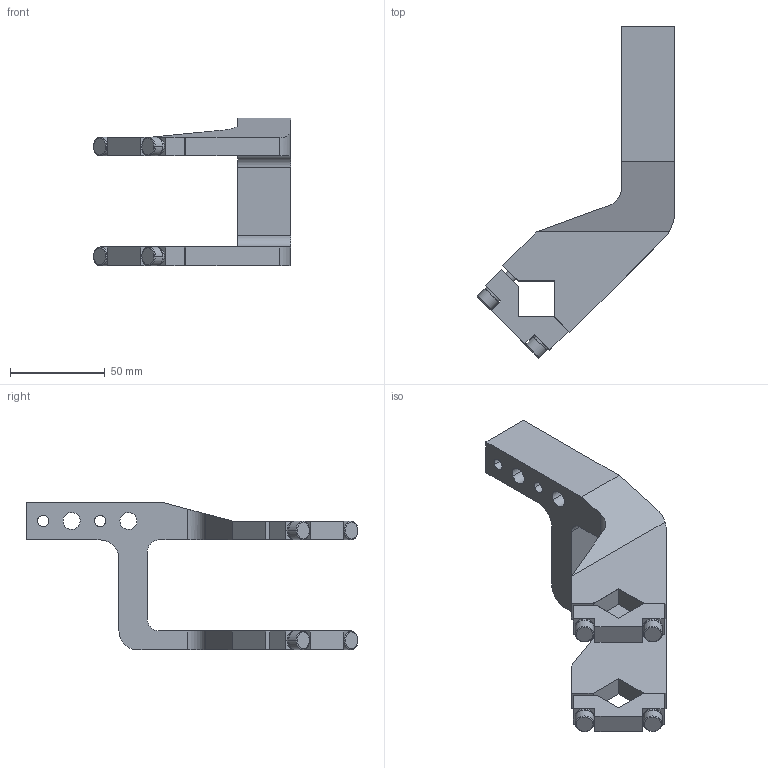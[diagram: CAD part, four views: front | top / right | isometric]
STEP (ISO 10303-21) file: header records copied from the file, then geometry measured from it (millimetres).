
FILE_DESCRIPTION(('CATIA V5 STEP Exchange'),'2;1');
FILE_NAME('E:\clampact\CLAMPACT\clampact\catalog\Clampact Arm\Arm 3D\Clampact Arm\arm_K50_45_A42_Clampact.stp','2022-12-06T08:08:09+00:00',('none'),('none'),'CATIA Version 5 Release 19 SP 6 (IN-10)','CATIA V5 STEP AP203','none');
FILE_SCHEMA(('CONFIG_CONTROL_DESIGN'));
Length unit declared in the file: millimetre
Products named in the file (1): K50_45_A42_Clampact_柯莱普
Bounding box: 104.05 x 175.05 x 78 mm (x, y, z)
Volume: 156602.5 mm3; surface area: 42345.2 mm2
Topology: 1 solids, 5 shells, 156 faces, 389 edges, 243 vertices
Faces by surface type: plane 76, cylinder 48, cone 20, torus 12
Entity records: 4430 total; most frequent: CARTESIAN_POINT 952, ORIENTED_EDGE 762, DIRECTION 573, EDGE_CURVE 381, VERTEX_POINT 243, AXIS2_PLACEMENT_3D 234, VECTOR 228, LINE 228
